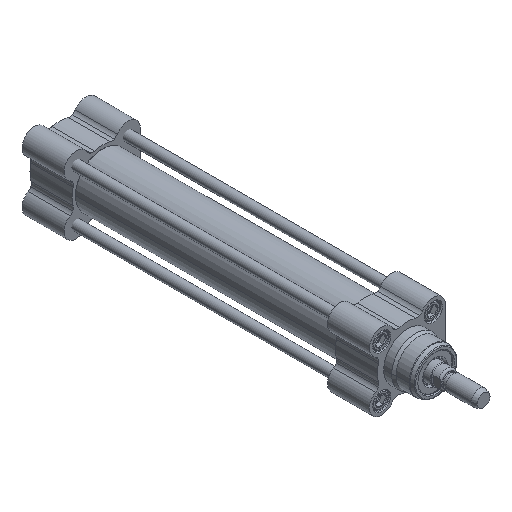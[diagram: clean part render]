
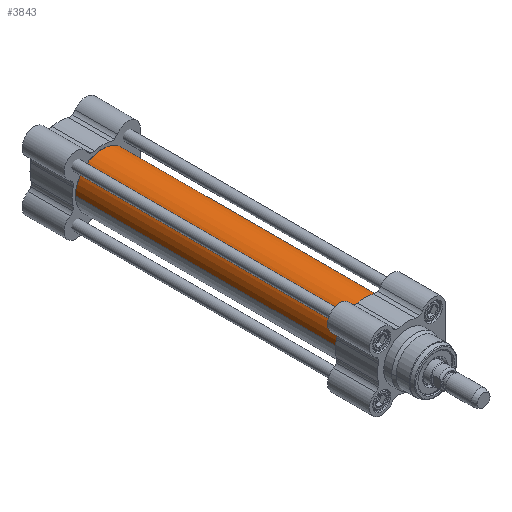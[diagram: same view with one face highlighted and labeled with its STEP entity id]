
A CAD part, isometric view. The second image highlights one B-rep face of the part: STEP entity #3843.
In plain terms, the highlighted cylindrical face has radius 17 mm (diameter 34 mm), a partial arc.
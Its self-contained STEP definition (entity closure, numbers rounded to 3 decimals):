
#879 = VERTEX_POINT ( 'NONE', #7320 ) ;
#907 = ORIENTED_EDGE ( 'NONE', *, *, #17365, .F. ) ;
#1129 = FACE_OUTER_BOUND ( 'NONE', #3460, .T. ) ;
#2688 = CIRCLE ( 'NONE', #21049, 17. ) ;
#3460 = EDGE_LOOP ( 'NONE', ( #907, #15922, #6803, #8233 ) ) ;
#3788 = DIRECTION ( 'NONE',  ( 1., 0., 0. ) ) ;
#3843 = ADVANCED_FACE ( 'NONE', ( #1129 ), #20971, .T. ) ;
#4544 = EDGE_CURVE ( 'NONE', #879, #7536, #8154, .T. ) ;
#5449 = VECTOR ( 'NONE', #11109, 1000. ) ;
#6572 = CARTESIAN_POINT ( 'NONE',  ( 17., 0., 0. ) ) ;
#6803 = ORIENTED_EDGE ( 'NONE', *, *, #4544, .T. ) ;
#6862 = DIRECTION ( 'NONE',  ( 0., 1., 0. ) ) ;
#7042 = DIRECTION ( 'NONE',  ( 0., 1., 0. ) ) ;
#7202 = CARTESIAN_POINT ( 'NONE',  ( -17., 0., 0. ) ) ;
#7219 = VECTOR ( 'NONE', #12449, 1000. ) ;
#7320 = CARTESIAN_POINT ( 'NONE',  ( 17., -82.8, 0. ) ) ;
#7536 = VERTEX_POINT ( 'NONE', #8066 ) ;
#8066 = CARTESIAN_POINT ( 'NONE',  ( 17., 82.8, 0. ) ) ;
#8154 = LINE ( 'NONE', #6572, #7219 ) ;
#8233 = ORIENTED_EDGE ( 'NONE', *, *, #15406, .F. ) ;
#8375 = EDGE_CURVE ( 'NONE', #879, #21391, #9375, .T. ) ;
#8465 = VERTEX_POINT ( 'NONE', #18652 ) ;
#8907 = AXIS2_PLACEMENT_3D ( 'NONE', #18749, #6862, #23066 ) ;
#9375 = CIRCLE ( 'NONE', #16483, 17. ) ;
#10071 = CARTESIAN_POINT ( 'NONE',  ( -17., -82.8, 0. ) ) ;
#11109 = DIRECTION ( 'NONE',  ( 0., 1., 0. ) ) ;
#11881 = CARTESIAN_POINT ( 'NONE',  ( 0., -82.8, 0. ) ) ;
#12449 = DIRECTION ( 'NONE',  ( 0., 1., 0. ) ) ;
#14989 = DIRECTION ( 'NONE',  ( 1., 0., 0. ) ) ;
#15406 = EDGE_CURVE ( 'NONE', #8465, #7536, #2688, .T. ) ;
#15922 = ORIENTED_EDGE ( 'NONE', *, *, #8375, .F. ) ;
#16483 = AXIS2_PLACEMENT_3D ( 'NONE', #11881, #25608, #3788 ) ;
#17365 = EDGE_CURVE ( 'NONE', #21391, #8465, #20779, .T. ) ;
#18652 = CARTESIAN_POINT ( 'NONE',  ( -17., 82.8, 0. ) ) ;
#18749 = CARTESIAN_POINT ( 'NONE',  ( 0., 0., 0. ) ) ;
#20779 = LINE ( 'NONE', #7202, #5449 ) ;
#20971 = CYLINDRICAL_SURFACE ( 'NONE', #8907, 17. ) ;
#21049 = AXIS2_PLACEMENT_3D ( 'NONE', #24936, #7042, #14989 ) ;
#21391 = VERTEX_POINT ( 'NONE', #10071 ) ;
#23066 = DIRECTION ( 'NONE',  ( 1., 0., 0. ) ) ;
#24936 = CARTESIAN_POINT ( 'NONE',  ( 0., 82.8, 0. ) ) ;
#25608 = DIRECTION ( 'NONE',  ( 0., -1., 0. ) ) ;
